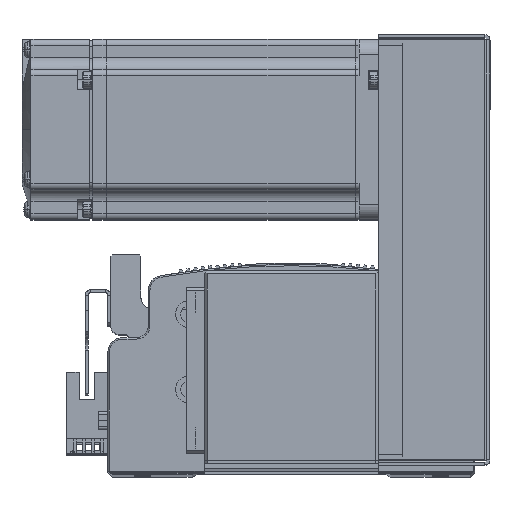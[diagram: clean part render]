
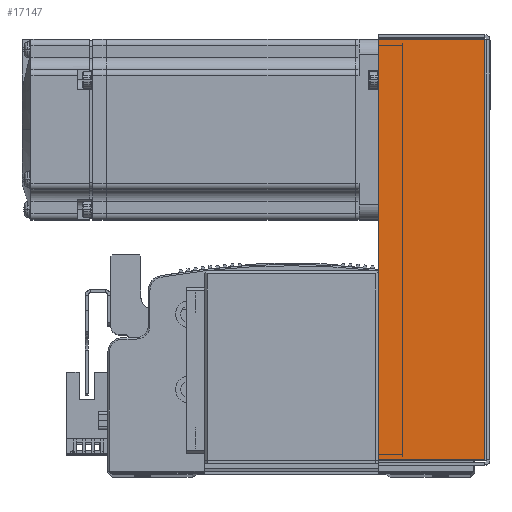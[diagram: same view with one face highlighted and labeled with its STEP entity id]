
A CAD part, top view. The second image highlights one B-rep face of the part: STEP entity #17147.
In plain terms, the highlighted planar face has unit normal (0, 0, 1) as drawn and (0, 0, -1) by its records, which use the part's own axes.
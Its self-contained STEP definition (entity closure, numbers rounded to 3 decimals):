
#8476 = EDGE_CURVE ( 'NONE', #12013, #11953, #79493, .T. ) ;
#8513 = EDGE_CURVE ( 'NONE', #11987, #11953, #18315, .T. ) ;
#8627 = EDGE_CURVE ( 'NONE', #12003, #11987, #66014, .T. ) ;
#8646 = EDGE_CURVE ( 'NONE', #12003, #12013, #66028, .T. ) ;
#11953 = VERTEX_POINT ( 'NONE', #36240 ) ;
#11987 = VERTEX_POINT ( 'NONE', #36349 ) ;
#12003 = VERTEX_POINT ( 'NONE', #36433 ) ;
#12013 = VERTEX_POINT ( 'NONE', #36443 ) ;
#17147 = ADVANCED_FACE ( 'NONE', ( #80949 ), #78991, .F. ) ;
#18315 = LINE ( 'NONE', #46907, #34328 ) ;
#34328 = VECTOR ( 'NONE', #46927, 1000. ) ;
#36240 = CARTESIAN_POINT ( 'NONE',  ( 69.793, 36., -33.5 ) ) ;
#36349 = CARTESIAN_POINT ( 'NONE',  ( -69.793, 36., -33.5 ) ) ;
#36433 = CARTESIAN_POINT ( 'NONE',  ( -69.793, 0.737, -33.5 ) ) ;
#36443 = CARTESIAN_POINT ( 'NONE',  ( 69.793, 0.737, -33.5 ) ) ;
#46859 = CARTESIAN_POINT ( 'NONE',  ( 69.793, 0., -33.5 ) ) ;
#46877 = DIRECTION ( 'NONE',  ( 0., 1., 0. ) ) ;
#46907 = CARTESIAN_POINT ( 'NONE',  ( 0., 36., -33.5 ) ) ;
#46927 = DIRECTION ( 'NONE',  ( 1., 0., 0. ) ) ;
#47126 = CARTESIAN_POINT ( 'NONE',  ( -69.793, 0., -33.5 ) ) ;
#47160 = DIRECTION ( 'NONE',  ( 0., 1., 0. ) ) ;
#47183 = CARTESIAN_POINT ( 'NONE',  ( 71.5, 0.737, -33.5 ) ) ;
#47207 = DIRECTION ( 'NONE',  ( 1., 0., 0. ) ) ;
#53470 = AXIS2_PLACEMENT_3D ( 'NONE', #78999, #78964, #78982 ) ;
#54892 = EDGE_LOOP ( 'NONE', ( #80514, #80628, #80632, #80539 ) ) ;
#66014 = LINE ( 'NONE', #47126, #66018 ) ;
#66018 = VECTOR ( 'NONE', #47160, 1000. ) ;
#66028 = LINE ( 'NONE', #47183, #66034 ) ;
#66034 = VECTOR ( 'NONE', #47207, 1000. ) ;
#78964 = DIRECTION ( 'NONE',  ( 0., 0., 1. ) ) ;
#78982 = DIRECTION ( 'NONE',  ( 0., -1., 0. ) ) ;
#78991 = PLANE ( 'NONE',  #53470 ) ;
#78999 = CARTESIAN_POINT ( 'NONE',  ( 0., 0., -33.5 ) ) ;
#79493 = LINE ( 'NONE', #46859, #79509 ) ;
#79509 = VECTOR ( 'NONE', #46877, 1000. ) ;
#80514 = ORIENTED_EDGE ( 'NONE', *, *, #8646, .F. ) ;
#80539 = ORIENTED_EDGE ( 'NONE', *, *, #8476, .F. ) ;
#80628 = ORIENTED_EDGE ( 'NONE', *, *, #8627, .T. ) ;
#80632 = ORIENTED_EDGE ( 'NONE', *, *, #8513, .T. ) ;
#80949 = FACE_OUTER_BOUND ( 'NONE', #54892, .T. ) ;
